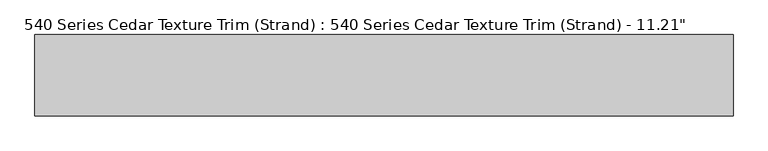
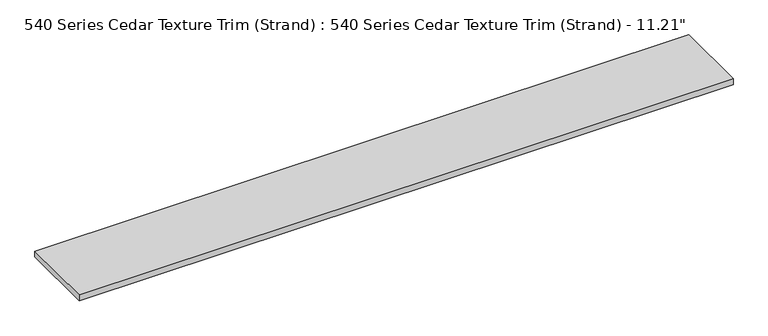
"""IFC4 building model written with IfcOpenShell, lengths in millimetres: proxy geometry."""

from ifc_helpers import new_model, si_unit, origin, origin_with_axes, place, context, project, spatial, polyline, outline, extrude, source, transform, mapped, element, save


def proxy_31047d23(model_context):
    return source(origin(), model_context, "Body", "SweptSolid", [
        extrude(outline(polyline([(2438.4, 0.0), (0.0, 0.0), (0.0, 284.7578125), (2438.4, 284.7578125), (2438.4, 0.0)])), origin_with_axes(), (0.0, 0.0, 1.0), 23.1179687),
    ])


if __name__ == "__main__":
    model = new_model("IFC4")
    model_context = context("Model", 3, world=origin())
    ifc_project = project(units=[si_unit("LENGTHUNIT", "METRE", prefix="MILLI")], contexts=[model_context])
    site = spatial("IfcSite", under=ifc_project)
    building = spatial("IfcBuilding", under=site)
    placement = place(None, origin())
    proxy_shape = proxy_31047d23(model_context)
    element("IfcBuildingElementProxy", 1, Name="540 Series Cedar Texture Trim (Strand) : 540 Series Cedar Texture Trim (Strand) - 11.21\"", ObjectType="540 Series Cedar Texture Trim (Strand) : 540 Series Cedar Texture Trim (Strand) - 11.21\"", at=placement, inside=building, context=model_context, shape_type="MappedRepresentation", body=[
        mapped(proxy_shape, transform((0.0, 0.0, 0.0), x_axis=(1.0, 0.0, 0.0), y_axis=(0.0, 1.0, 0.0), z_axis=(0.0, 0.0, 1.0))),
    ])
    save(model, "model.ifc")
